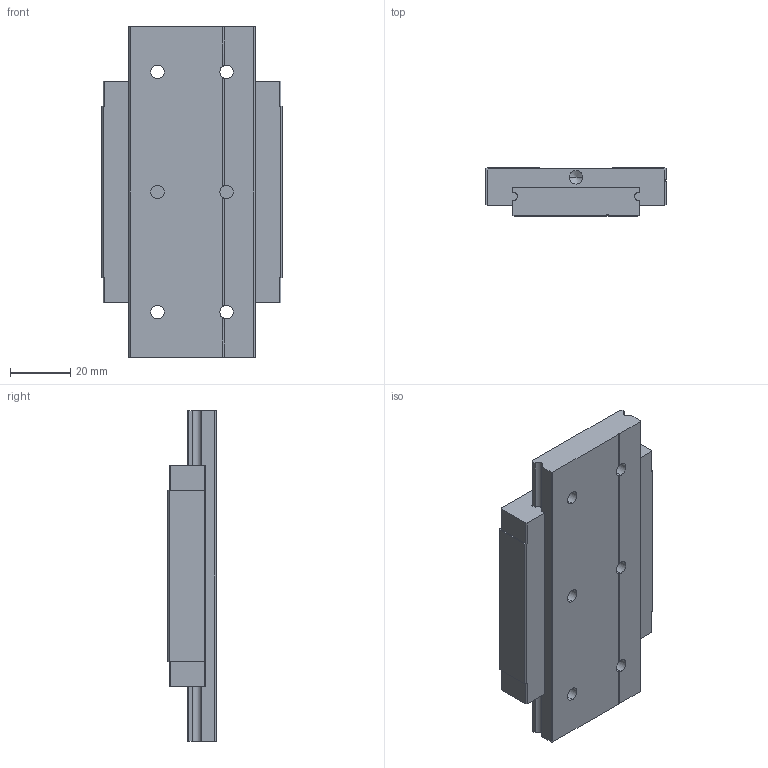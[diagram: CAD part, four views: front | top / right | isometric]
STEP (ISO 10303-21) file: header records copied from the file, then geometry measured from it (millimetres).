
FILE_DESCRIPTION (( 'STEP AP214' ), '1' );
FILE_NAME ('2.1067 Lineaarikelkka MGW15H.STEP', '2025-09-19T06:57:00', ( '' ), ( '' ), 'SwSTEP 2.0', 'SolidWorks 2025', '' );
FILE_SCHEMA (( 'AUTOMOTIVE_DESIGN' ));
Length unit declared in the file: millimetre
Products named in the file (1): 2.1067 Lineaarikelkka MGW15H
Bounding box: 60 x 16 x 110 mm (x, y, z)
Volume: 77366.7 mm3; surface area: 26465.8 mm2
Topology: 2 solids, 2 shells, 116 faces, 315 edges, 200 vertices
Faces by surface type: plane 56, cylinder 48, cone 12
Entity records: 5117 total; most frequent: CARTESIAN_POINT 842, DIRECTION 627, ORIENTED_EDGE 606, EDGE_CURVE 303, AXIS2_PLACEMENT_3D 213, LINE 201, VECTOR 201, VERTEX_POINT 200
